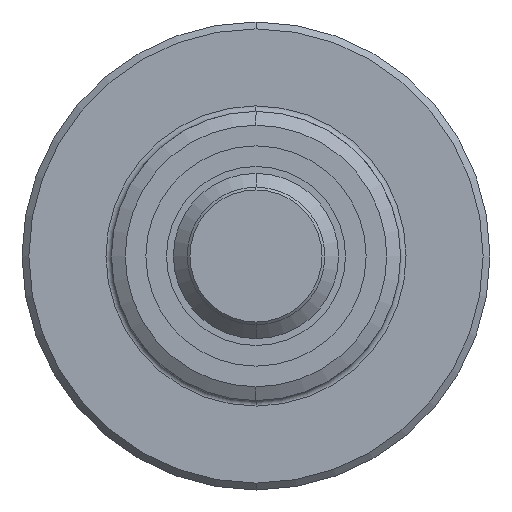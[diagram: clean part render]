
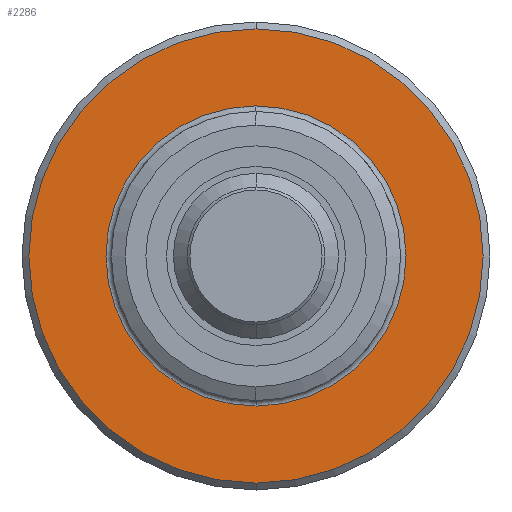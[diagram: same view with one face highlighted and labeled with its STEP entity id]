
A CAD part, left-side view. The second image highlights one B-rep face of the part: STEP entity #2286.
In plain terms, the highlighted planar face has unit normal (-1, 0, 0).
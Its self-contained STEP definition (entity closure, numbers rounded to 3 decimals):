
#315=CARTESIAN_POINT('',(-4.,0.,
0.));
#316=DIRECTION('',(1.,0.,0.));
#317=DIRECTION('',(0.,0.,1.));
#318=AXIS2_PLACEMENT_3D('',#315,#316,#317);
#320=CARTESIAN_POINT('',(-4.,0.,
0.));
#321=DIRECTION('',(1.,0.,0.));
#322=DIRECTION('',(0.,0.,-1.));
#323=AXIS2_PLACEMENT_3D('',#320,#321,#322);
#325=CARTESIAN_POINT('',(-4.,0.,0.));
#326=DIRECTION('',(-1.,0.,0.));
#327=DIRECTION('',(0.,0.,1.));
#328=AXIS2_PLACEMENT_3D('',#325,#326,#327);
#330=CARTESIAN_POINT('',(-4.,0.,0.));
#331=DIRECTION('',(-1.,0.,0.));
#332=DIRECTION('',(0.,0.01,1.));
#333=AXIS2_PLACEMENT_3D('',#330,#331,#332);
#335=CARTESIAN_POINT('',(-4.,0.,0.));
#336=DIRECTION('',(-1.,0.,0.));
#337=DIRECTION('',(0.,0.,-1.));
#338=AXIS2_PLACEMENT_3D('',#335,#336,#337);
#340=CARTESIAN_POINT('',(-4.,0.,0.));
#341=DIRECTION('',(-1.,0.,0.));
#342=DIRECTION('',(0.,-0.01,-1.));
#343=AXIS2_PLACEMENT_3D('',#340,#341,#342);
#1747=CARTESIAN_POINT('',(-4.,0.,
-16.5));
#1748=CARTESIAN_POINT('',(-4.,0.,
16.5));
#1749=VERTEX_POINT('',#1747);
#1750=VERTEX_POINT('',#1748);
#1751=CARTESIAN_POINT('',(-4.,0.11,10.899));
#1752=CARTESIAN_POINT('',(-4.,0.,-10.9));
#1753=VERTEX_POINT('',#1751);
#1754=VERTEX_POINT('',#1752);
#1755=CARTESIAN_POINT('',(-4.,0.,10.9));
#1756=VERTEX_POINT('',#1755);
#1757=CARTESIAN_POINT('',(-4.,-0.11,-10.899));
#1758=VERTEX_POINT('',#1757);
#2266=CARTESIAN_POINT('',(-4.,0.,0.));
#2267=DIRECTION('',(1.,0.,0.));
#2268=DIRECTION('',(0.,0.,1.));
#2269=AXIS2_PLACEMENT_3D('',#2266,#2267,#2268);
#2270=PLANE('',#2269);
#2272=ORIENTED_EDGE('',*,*,#2271,.T.);
#2273=ORIENTED_EDGE('',*,*,#2256,.T.);
#2274=EDGE_LOOP('',(#2272,#2273));
#2275=FACE_OUTER_BOUND('',#2274,.F.);
#2277=ORIENTED_EDGE('',*,*,#2276,.T.);
#2279=ORIENTED_EDGE('',*,*,#2278,.T.);
#2281=ORIENTED_EDGE('',*,*,#2280,.T.);
#2283=ORIENTED_EDGE('',*,*,#2282,.T.);
#2284=EDGE_LOOP('',(#2277,#2279,#2281,#2283));
#2285=FACE_BOUND('',#2284,.F.);
#2286=ADVANCED_FACE('',(#2275,#2285),#2270,.F.);
#319=CIRCLE('',#318,16.5);
#324=CIRCLE('',#323,16.5);
#329=CIRCLE('',#328,10.9);
#334=CIRCLE('',#333,10.9);
#339=CIRCLE('',#338,10.9);
#344=CIRCLE('',#343,10.9);
#2256=EDGE_CURVE('',#1749,#1750,#324,.T.);
#2271=EDGE_CURVE('',#1750,#1749,#319,.T.);
#2276=EDGE_CURVE('',#1756,#1753,#329,.T.);
#2278=EDGE_CURVE('',#1753,#1754,#334,.T.);
#2280=EDGE_CURVE('',#1754,#1758,#339,.T.);
#2282=EDGE_CURVE('',#1758,#1756,#344,.T.);
